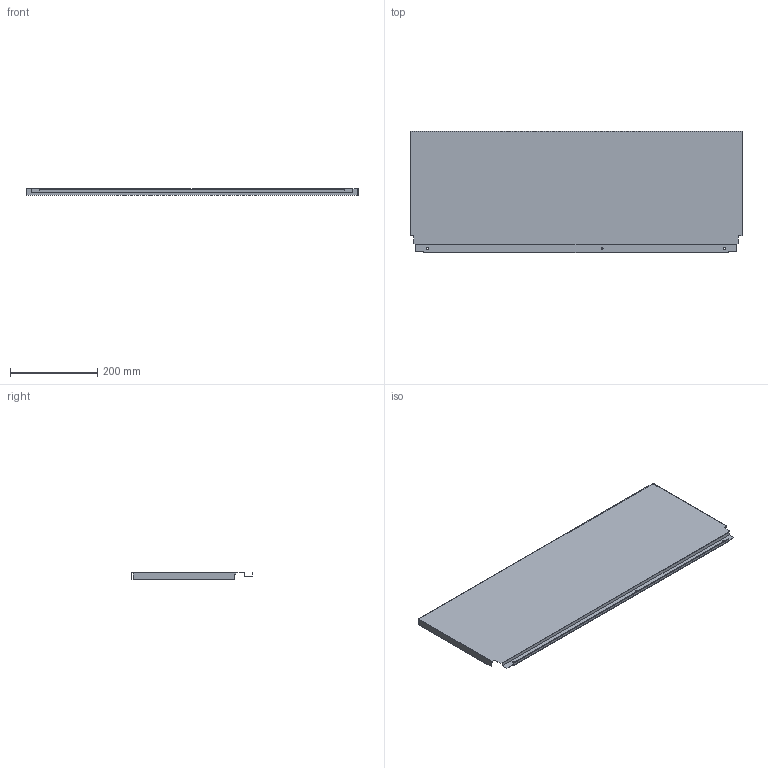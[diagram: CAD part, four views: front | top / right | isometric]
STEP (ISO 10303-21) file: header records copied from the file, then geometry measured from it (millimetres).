
FILE_DESCRIPTION (( 'STEP AP214' ), '1' );
FILE_NAME ('_DWD_XP Stahlrückwand_H278_KAB850_S18.step', '2010-07-08T13:04:00', ( 'grass' ), ( '' ), 'SwSTEP 2.0', 'SolidWorks 2010', '' );
FILE_SCHEMA (( 'AUTOMOTIVE_DESIGN' ));
Length unit declared in the file: millimetre
Products named in the file (1): _DWD_XP Stahlrückwand_H278_KAB850_S18
Bounding box: 763 x 278.57 x 16 mm (x, y, z)
Volume: 212115.9 mm3; surface area: 483982.6 mm2
Topology: 1 solids, 1 shells, 46 faces, 132 edges, 88 vertices
Faces by surface type: plane 40, cylinder 6
Entity records: 1534 total; most frequent: CARTESIAN_POINT 267, ORIENTED_EDGE 264, DIRECTION 238, EDGE_CURVE 132, LINE 120, VECTOR 120, VERTEX_POINT 88, AXIS2_PLACEMENT_3D 59
